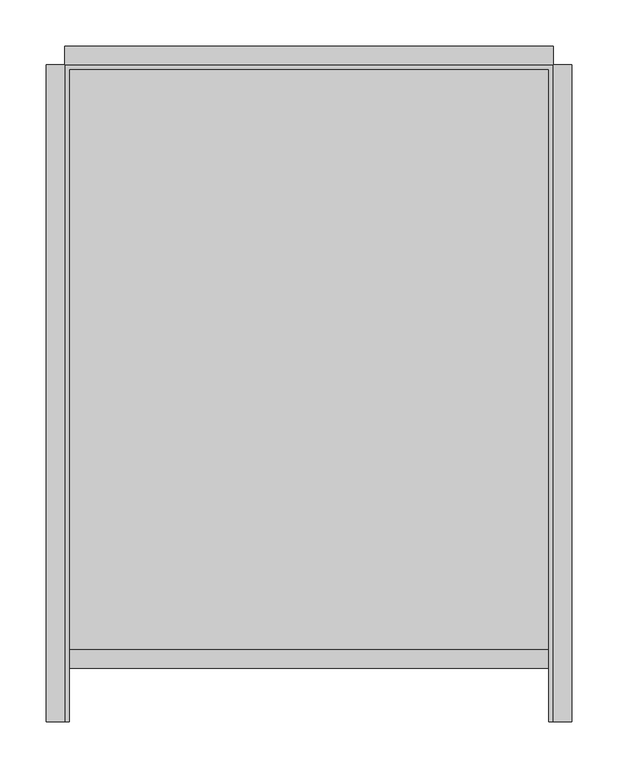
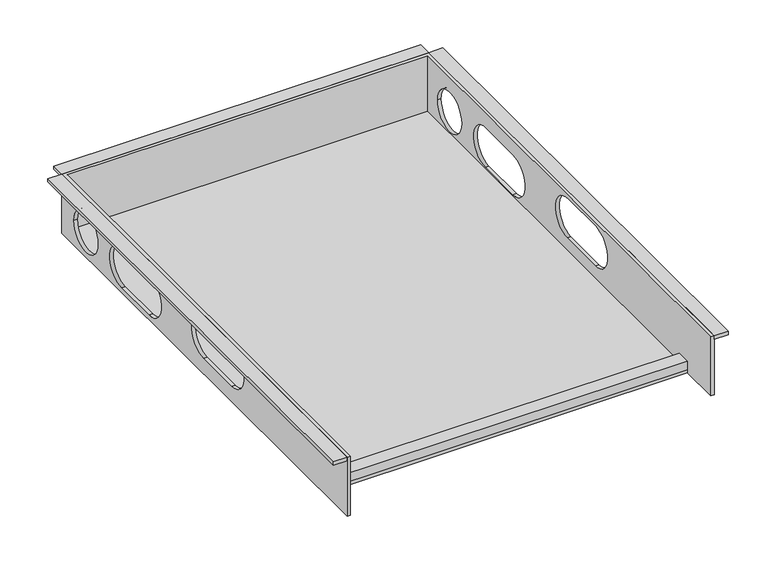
"""IFC4 building model written with IfcOpenShell, lengths in millimetres: valve geometry, Superpipe Manifold Cabinet Concealed Version : Superpipe Manifold Cabinet Concealed Version-4&5Way."""

from ifc_helpers import new_model, si_unit, frame, origin, place, context, project, spatial, polyline, circle_curve, outline, extrude, source, transform, mapped, element, save
from ifc_brep_helpers import plane_surface, revolved_surface, advanced_brep


def valve_60ca6583(model_context):
    return source(origin(), model_context, "Body", "SolidModel", [
        extrude(outline(polyline([(-298.5, -72.0341988), (-278.5, -72.0341988), (-278.5, -77.0341988), (-293.5, -77.0341988), (-293.5, -85.0), (-298.5, -85.0), (-298.5, -72.0341988)])), frame((-260.0, 0.0, 0.0), z_axis=(1.0, 0.0, 0.0), x_axis=(0.0, 1.0, 0.0)), (0.0, 0.0, 1.0), 520.0),
        extrude(outline(polyline([(285.0, -356.5), (265.0, -356.5), (265.0, 356.5), (285.0, 356.5), (285.0, -356.5)])), frame((0.0, 0.0, -5.0), z_axis=(0.0, 0.0, 1.0), x_axis=(1.0, 0.0, 0.0)), (0.0, 0.0, 1.0), 5.0),
        extrude(outline(polyline([(-265.0, -356.5), (-285.0, -356.5), (-285.0, 356.5), (-265.0, 356.5), (-265.0, -356.5)])), frame((0.0, 0.0, -5.0), z_axis=(0.0, 0.0, 1.0), x_axis=(1.0, 0.0, 0.0)), (0.0, 0.0, 1.0), 5.0),
        extrude(outline(polyline([(265.0, 376.5), (265.0, 356.5), (-265.0, 356.5), (-265.0, 376.5), (265.0, 376.5)])), frame((0.0, 0.0, -5.0), z_axis=(0.0, 0.0, 1.0), x_axis=(1.0, 0.0, 0.0)), (0.0, 0.0, 1.0), 5.0),
        advanced_brep(
        [(265.0, 356.5, 0.0), (-265.0, 356.5, 0.0), (-265.0, -356.5, 0.0), (-260.0, -356.5, 0.0), (-260.0, 351.5, 0.0), (260.0, 351.5, 0.0), (260.0, -356.5, 0.0), (265.0, -356.5, 0.0), (265.0, 356.5, -90.0), (265.0, -356.5, -90.0), (260.0, -356.5, -90.0), (260.0, -298.5, -90.0), (-260.0, -298.5, -90.0), (-260.0, -356.5, -90.0), (-265.0, -356.5, -90.0), (-265.0, 356.5, -90.0), (-265.0, 266.5, -52.5), (-265.0, 326.5, -52.5), (-265.0, 138.0, -82.5), (-265.0, 206.5, -82.5), (-265.0, 206.5, -22.5), (-265.0, 138.0, -22.5), (-265.0, -68.5, -66.0), (-265.0, 1.5, -66.0), (-265.0, 1.5, -6.0), (-265.0, -68.5, -6.0), (265.0, 326.5, -52.5), (265.0, 266.5, -52.5), (265.0, 206.5, -82.5), (265.0, 138.0, -82.5), (265.0, 138.0, -22.5), (265.0, 206.5, -22.5), (265.0, 1.5, -66.0), (265.0, -68.5, -66.0), (265.0, -68.5, -6.0), (265.0, 1.5, -6.0), (260.0, 351.5, -85.0), (-260.0, 351.5, -85.0), (-260.0, -298.5, -85.0), (260.0, -298.5, -85.0), (-260.0, 326.5, -52.5), (-260.0, 266.5, -52.5), (-260.0, 206.5, -82.5), (-260.0, 138.0, -82.5), (-260.0, 138.0, -22.5), (-260.0, 206.5, -22.5), (-260.0, 1.5, -66.0), (-260.0, -68.5, -66.0), (-260.0, -68.5, -6.0), (-260.0, 1.5, -6.0), (260.0, 266.5, -52.5), (260.0, 326.5, -52.5), (260.0, 138.0, -82.5), (260.0, 206.5, -82.5), (260.0, 206.5, -22.5), (260.0, 138.0, -22.5), (260.0, -68.5, -66.0), (260.0, 1.5, -66.0), (260.0, 1.5, -6.0), (260.0, -68.5, -6.0)],
        [
            (0, 1),
            (1, 2),
            (2, 3),
            (3, 4),
            (4, 5),
            (5, 6),
            (6, 7),
            (7, 0),
            (8, 9),
            (9, 10),
            (10, 11),
            (11, 12),
            (12, 13),
            (13, 14),
            (14, 15),
            (15, 8),
            (0, 8),
            (15, 1),
            (14, 2),
            (16, 17, circle_curve(frame((-265.0, 296.5, -52.5), z_axis=(1.0, 0.0, 0.0), x_axis=(0.0, -1.0, 0.0)), 30.0)),
            (17, 16, circle_curve(frame((-265.0, 296.5, -52.5), z_axis=(1.0, 0.0, 0.0), x_axis=(0.0, -1.0, 0.0)), 30.0)),
            (18, 19),
            (19, 20, circle_curve(frame((-265.0, 206.5, -52.5), z_axis=(1.0, 0.0, 0.0), x_axis=(0.0, -1.0, 0.0)), 30.0)),
            (20, 21),
            (21, 18, circle_curve(frame((-265.0, 138.0, -52.5), z_axis=(1.0, 0.0, 0.0), x_axis=(0.0, -1.0, 0.0)), 30.0)),
            (22, 23),
            (23, 24, circle_curve(frame((-265.0, 1.5, -36.0), z_axis=(1.0, 0.0, 0.0), x_axis=(0.0, -1.0, 0.0)), 30.0)),
            (24, 25),
            (25, 22, circle_curve(frame((-265.0, -68.5, -36.0), z_axis=(1.0, 0.0, 0.0), x_axis=(0.0, -1.0, 0.0)), 30.0)),
            (13, 3),
            (9, 7),
            (6, 10),
            (26, 27, circle_curve(frame((265.0, 296.5, -52.5), z_axis=(-1.0, 0.0, 0.0), x_axis=(0.0, -1.0, 0.0)), 30.0)),
            (27, 26, circle_curve(frame((265.0, 296.5, -52.5), z_axis=(-1.0, 0.0, 0.0), x_axis=(0.0, -1.0, 0.0)), 30.0)),
            (28, 29),
            (29, 30, circle_curve(frame((265.0, 138.0, -52.5), z_axis=(-1.0, 0.0, 0.0), x_axis=(0.0, -1.0, 0.0)), 30.0)),
            (30, 31),
            (31, 28, circle_curve(frame((265.0, 206.5, -52.5), z_axis=(-1.0, 0.0, 0.0), x_axis=(0.0, -1.0, 0.0)), 30.0)),
            (32, 33),
            (33, 34, circle_curve(frame((265.0, -68.5, -36.0), z_axis=(-1.0, 0.0, 0.0), x_axis=(0.0, -1.0, 0.0)), 30.0)),
            (34, 35),
            (35, 32, circle_curve(frame((265.0, 1.5, -36.0), z_axis=(-1.0, 0.0, 0.0), x_axis=(0.0, -1.0, 0.0)), 30.0)),
            (36, 37),
            (37, 38),
            (38, 39),
            (39, 36),
            (36, 5),
            (4, 37),
            (12, 38),
            (40, 41, circle_curve(frame((-260.0, 296.5, -52.5), z_axis=(-1.0, 0.0, 0.0), x_axis=(0.0, -1.0, 0.0)), 30.0)),
            (41, 40, circle_curve(frame((-260.0, 296.5, -52.5), z_axis=(-1.0, 0.0, 0.0), x_axis=(0.0, -1.0, 0.0)), 30.0)),
            (42, 43),
            (43, 44, circle_curve(frame((-260.0, 138.0, -52.5), z_axis=(-1.0, 0.0, 0.0), x_axis=(0.0, -1.0, 0.0)), 30.0)),
            (44, 45),
            (45, 42, circle_curve(frame((-260.0, 206.5, -52.5), z_axis=(-1.0, 0.0, 0.0), x_axis=(0.0, -1.0, 0.0)), 30.0)),
            (46, 47),
            (47, 48, circle_curve(frame((-260.0, -68.5, -36.0), z_axis=(-1.0, 0.0, 0.0), x_axis=(0.0, -1.0, 0.0)), 30.0)),
            (48, 49),
            (49, 46, circle_curve(frame((-260.0, 1.5, -36.0), z_axis=(-1.0, 0.0, 0.0), x_axis=(0.0, -1.0, 0.0)), 30.0)),
            (39, 11),
            (50, 51, circle_curve(frame((260.0, 296.5, -52.5), z_axis=(1.0, 0.0, 0.0), x_axis=(0.0, -1.0, 0.0)), 30.0)),
            (51, 50, circle_curve(frame((260.0, 296.5, -52.5), z_axis=(1.0, 0.0, 0.0), x_axis=(0.0, -1.0, 0.0)), 30.0)),
            (52, 53),
            (53, 54, circle_curve(frame((260.0, 206.5, -52.5), z_axis=(1.0, 0.0, 0.0), x_axis=(0.0, -1.0, 0.0)), 30.0)),
            (54, 55),
            (55, 52, circle_curve(frame((260.0, 138.0, -52.5), z_axis=(1.0, 0.0, 0.0), x_axis=(0.0, -1.0, 0.0)), 30.0)),
            (56, 57),
            (57, 58, circle_curve(frame((260.0, 1.5, -36.0), z_axis=(1.0, 0.0, 0.0), x_axis=(0.0, -1.0, 0.0)), 30.0)),
            (58, 59),
            (59, 56, circle_curve(frame((260.0, -68.5, -36.0), z_axis=(1.0, 0.0, 0.0), x_axis=(0.0, -1.0, 0.0)), 30.0)),
            (40, 17),
            (16, 41),
            (26, 51),
            (50, 27),
            (42, 19),
            (18, 43),
            (28, 53),
            (52, 29),
            (21, 44),
            (55, 30),
            (20, 45),
            (54, 31),
            (46, 23),
            (22, 47),
            (32, 57),
            (56, 33),
            (25, 48),
            (59, 34),
            (24, 49),
            (58, 35),
        ],
        [
            plane_surface(frame((-265.0, 356.5, 0.0), z_axis=(0.0, 0.0, 1.0), x_axis=(-1.0, 0.0, 0.0))),
            plane_surface(frame((-265.0, 356.5, -90.0), z_axis=(0.0, 0.0, -1.0), x_axis=(1.0, 0.0, 0.0))),
            plane_surface(frame((265.0, 356.5, 0.0), z_axis=(0.0, 1.0, 0.0), x_axis=(0.0, 0.0, -1.0))),
            plane_surface(frame((-265.0, 356.5, 0.0), z_axis=(-1.0, 0.0, 0.0), x_axis=(0.0, 0.0, -1.0))),
            plane_surface(frame((-265.0, -356.5, 0.0), z_axis=(0.0, -1.0, 0.0), x_axis=(0.0, 0.0, -1.0))),
            plane_surface(frame((265.0, -356.5, 0.0), z_axis=(1.0, 0.0, 0.0), x_axis=(0.0, 0.0, -1.0))),
            plane_surface(frame((-260.0, 351.5, -85.0), z_axis=(0.0, 0.0, 1.0), x_axis=(1.0, 0.0, 0.0))),
            plane_surface(frame((260.0, 351.5, 0.0), z_axis=(0.0, -1.0, 0.0), x_axis=(0.0, 0.0, -1.0))),
            plane_surface(frame((-260.0, 351.5, 0.0), z_axis=(1.0, 0.0, 0.0), x_axis=(0.0, 0.0, -1.0))),
            plane_surface(frame((260.0, -356.5, 0.0), z_axis=(-1.0, 0.0, 0.0), x_axis=(0.0, 0.0, -1.0))),
            plane_surface(frame((260.0, -298.5, -85.0), z_axis=(0.0, -1.0, 0.0), x_axis=(0.0, 0.0, -1.0))),
            revolved_surface(polyline([(-265.0, 266.5, -52.5), (-260.0, 266.5, -52.5)]), (265.0, 296.5, -52.5), (-1.0, 0.0, 0.0)),
            revolved_surface(polyline([(260.0, 266.5, -52.5), (265.0, 266.5, -52.5)]), (265.0, 296.5, -52.5), (-1.0, 0.0, 0.0)),
            plane_surface(frame((-265.0, 206.5, -82.5), z_axis=(0.0, 0.0, 1.0), x_axis=(1.0, 0.0, 0.0))),
            revolved_surface(polyline([(-265.0, 108.0, -52.5), (-260.0, 108.0, -52.5)]), (-265.0, 138.0, -52.5), (-1.0, 0.0, 0.0)),
            revolved_surface(polyline([(260.0, 108.0, -52.5), (265.0, 108.0, -52.5)]), (-265.0, 138.0, -52.5), (-1.0, 0.0, 0.0)),
            plane_surface(frame((-265.0, 138.0, -22.5), z_axis=(0.0, 0.0, -1.0), x_axis=(1.0, 0.0, 0.0))),
            revolved_surface(polyline([(-265.0, 176.5, -52.5), (-260.0, 176.5, -52.5)]), (-265.0, 206.5, -52.5), (-1.0, 0.0, 0.0)),
            revolved_surface(polyline([(260.0, 176.5, -52.5), (265.0, 176.5, -52.5)]), (-265.0, 206.5, -52.5), (-1.0, 0.0, 0.0)),
            plane_surface(frame((-265.0, 1.5, -66.0), z_axis=(0.0, 0.0, 1.0), x_axis=(1.0, 0.0, 0.0))),
            revolved_surface(polyline([(-265.0, -98.5, -36.0), (-260.0, -98.5, -36.0)]), (-265.0, -68.5, -36.0), (-1.0, 0.0, 0.0)),
            revolved_surface(polyline([(260.0, -98.5, -36.0), (265.0, -98.5, -36.0)]), (-265.0, -68.5, -36.0), (-1.0, 0.0, 0.0)),
            plane_surface(frame((-265.0, -68.5, -6.0), z_axis=(0.0, 0.0, -1.0), x_axis=(1.0, 0.0, 0.0))),
            revolved_surface(polyline([(-265.0, -28.5, -36.0), (-260.0, -28.5, -36.0)]), (-265.0, 1.5, -36.0), (-1.0, 0.0, 0.0)),
            revolved_surface(polyline([(260.0, -28.5, -36.0), (265.0, -28.5, -36.0)]), (-265.0, 1.5, -36.0), (-1.0, 0.0, 0.0)),
        ],
        [
            (0, [[1, 2, 3, 4, 5, 6, 7, 8]]),
            (1, [[9, 10, 11, 12, 13, 14, 15, 16]]),
            (2, [[-1, 17, -16, 18]]),
            (3, [[-2, -18, -15, 19], [20, 21], [22, 23, 24, 25], [26, 27, 28, 29]]),
            (4, [[-19, -14, 30, -3]]),
            (4, [[31, -7, 32, -10]]),
            (5, [[-8, -31, -9, -17], [33, 34], [35, 36, 37, 38], [39, 40, 41, 42]]),
            (6, [[43, 44, 45, 46]]),
            (7, [[-43, 47, -5, 48]]),
            (8, [[-48, -4, -30, -13, 49, -44], [50, 51], [52, 53, 54, 55], [56, 57, 58, 59]]),
            (9, [[-47, -46, 60, -11, -32, -6], [61, 62], [63, 64, 65, 66], [67, 68, 69, 70]]),
            (10, [[-49, -12, -60, -45]]),
            (11, [[71, -20, 72, -50]]),
            (12, [[73, -61, 74, -33]]),
            (11, [[-71, -51, -72, -21]]),
            (12, [[-73, -34, -74, -62]]),
            (13, [[75, -22, 76, -52]]),
            (13, [[77, -63, 78, -35]]),
            (14, [[-76, -25, 79, -53]]),
            (15, [[-78, -66, 80, -36]]),
            (16, [[-79, -24, 81, -54]]),
            (16, [[-80, -65, 82, -37]]),
            (17, [[-75, -55, -81, -23]]),
            (18, [[-77, -38, -82, -64]]),
            (19, [[83, -26, 84, -56]]),
            (19, [[85, -67, 86, -39]]),
            (20, [[-84, -29, 87, -57]]),
            (21, [[-86, -70, 88, -40]]),
            (22, [[-87, -28, 89, -58]]),
            (22, [[-88, -69, 90, -41]]),
            (23, [[-83, -59, -89, -27]]),
            (24, [[-85, -42, -90, -68]]),
        ],
    ),
    ])


if __name__ == "__main__":
    model = new_model("IFC4")
    model_context = context("Model", 3, world=origin())
    ifc_project = project(units=[si_unit("LENGTHUNIT", "METRE", prefix="MILLI")], contexts=[model_context])
    site = spatial("IfcSite", under=ifc_project)
    building = spatial("IfcBuilding", under=site)
    placement = place(None, origin())
    valve_shape = valve_60ca6583(model_context)
    element("IfcValve", 1, ObjectType="Superpipe Manifold Cabinet Concealed Version : Superpipe Manifold Cabinet Concealed Version-4&5Way", at=placement, inside=building, context=model_context, shape_type="MappedRepresentation", body=[
        mapped(valve_shape, transform((0.0, 0.0, 0.0), x_axis=(1.0, 0.0, 0.0), y_axis=(0.0, 1.0, 0.0), z_axis=(0.0, 0.0, 1.0))),
    ])
    save(model, "model.ifc")
